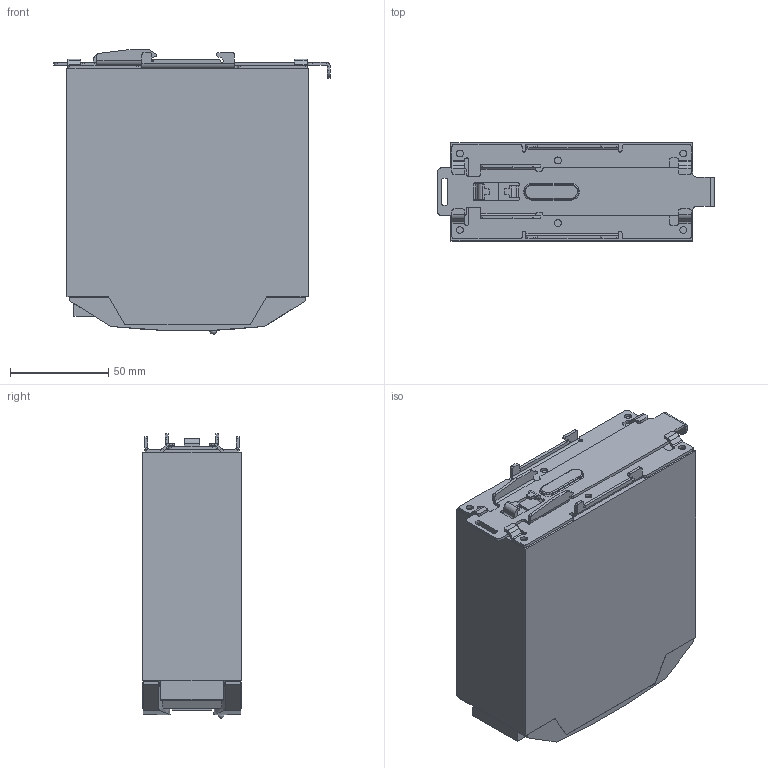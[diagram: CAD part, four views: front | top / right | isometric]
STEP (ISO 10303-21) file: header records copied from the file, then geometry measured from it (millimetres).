
FILE_DESCRIPTION(/* description */ (''),/* implementation_level */ '2;1');
FILE_NAME(/* name */ 'O:\Projekte_G\1529G0X\Grafiken\CAD\1529G01-0001.stp',/* time_stamp */ '2016-09-07T09:20:10+02:00',/* author */ ('aj'),/* organization */ (''),/* preprocessor_version */ 'ST-DEVELOPER v15.6',/* originating_system */ 'Autodesk Inventor 2015',/* authorisation */ '');
FILE_SCHEMA (('CONFIG_CONTROL_DESIGN'));
Length unit declared in the file: millimetre
Products named in the file (1): 1529G01-0001
Bounding box: 141 x 50 x 145.11 mm (x, y, z)
Volume: 797889.7 mm3; surface area: 68050.4 mm2
Topology: 1 solids, 2 shells, 695 faces, 1786 edges, 1144 vertices
Faces by surface type: plane 427, cylinder 251, cone 8, torus 8, sphere 1
Full cylindrical faces by diameter (mm): 0.457 x1, 3.5 x7, 3.8 x6, 4 x2
Entity records: 23271 total; most frequent: CARTESIAN_POINT 5305, DIRECTION 3641, ORIENTED_EDGE 3534, EDGE_CURVE 1767, AXIS2_PLACEMENT_3D 1230, LINE 1181, VECTOR 1181, VERTEX_POINT 1142
